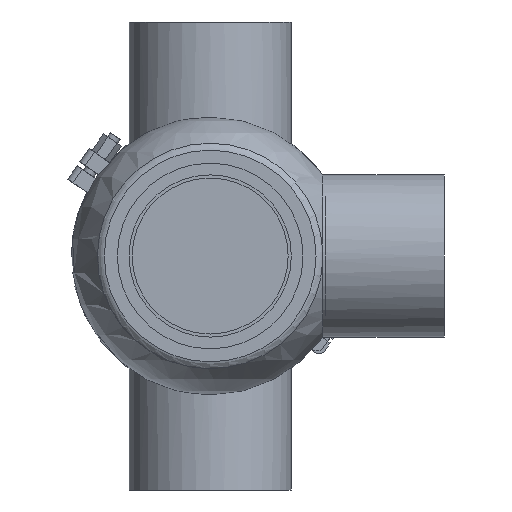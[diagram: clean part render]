
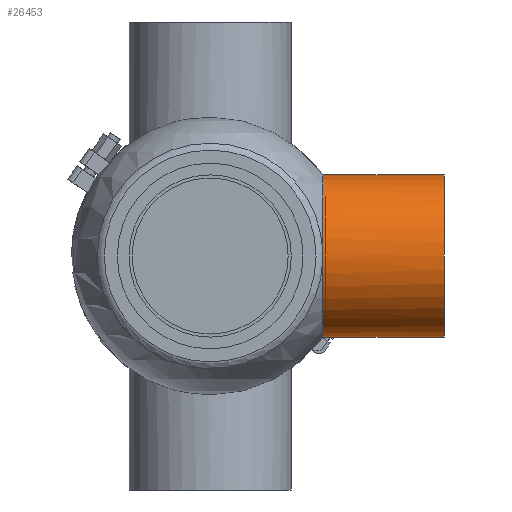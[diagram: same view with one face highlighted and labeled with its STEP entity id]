
A CAD part, front view. The second image highlights one B-rep face of the part: STEP entity #26453.
In plain terms, the highlighted cylindrical face has radius 52 mm (diameter 104 mm), a full revolution.
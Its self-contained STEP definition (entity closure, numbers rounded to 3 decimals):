
#510 = CARTESIAN_POINT ( 'NONE',  ( 72.229, 0., 0. ) ) ;
#591 = CARTESIAN_POINT ( 'NONE',  ( 72.229, 51.971, -1.75 ) ) ;
#992 = CARTESIAN_POINT ( 'NONE',  ( 72.229, 51.971, 1.75 ) ) ;
#1471 = CIRCLE ( 'NONE', #3363, 52. ) ;
#2521 = EDGE_CURVE ( 'NONE', #14295, #38650, #6543, .T. ) ;
#3198 = ORIENTED_EDGE ( 'NONE', *, *, #49920, .T. ) ;
#3363 = AXIS2_PLACEMENT_3D ( 'NONE', #510, #22889, #33087 ) ;
#3725 = CARTESIAN_POINT ( 'NONE',  ( 72.229, -52.018, -0.773 ) ) ;
#4003 = VERTEX_POINT ( 'NONE', #992 ) ;
#6543 = B_SPLINE_CURVE_WITH_KNOTS ( 'NONE', 3,
 ( #27333, #60237, #3725, #22685 ),
 .UNSPECIFIED., .F., .F.,
 ( 4, 4 ),
 ( 0.022, 0.026 ),
 .UNSPECIFIED. ) ;
#11148 = EDGE_CURVE ( 'NONE', #4003, #14295, #41016, .T. ) ;
#12014 = CARTESIAN_POINT ( 'NONE',  ( 150., 0., 52. ) ) ;
#12229 = ORIENTED_EDGE ( 'NONE', *, *, #14191, .T. ) ;
#12925 = DIRECTION ( 'NONE',  ( -1., 0., 0. ) ) ;
#14191 = EDGE_CURVE ( 'NONE', #16657, #16657, #48081, .T. ) ;
#14295 = VERTEX_POINT ( 'NONE', #26516 ) ;
#16282 = AXIS2_PLACEMENT_3D ( 'NONE', #51926, #28303, #59977 ) ;
#16657 = VERTEX_POINT ( 'NONE', #12014 ) ;
#18613 = CARTESIAN_POINT ( 'NONE',  ( 72.229, 51.971, 1.75 ) ) ;
#20208 = FACE_OUTER_BOUND ( 'NONE', #55333, .T. ) ;
#20278 = CARTESIAN_POINT ( 'NONE',  ( 72.229, 51.971, -1.75 ) ) ;
#20454 = AXIS2_PLACEMENT_3D ( 'NONE', #30444, #26698, #50297 ) ;
#22558 = VERTEX_POINT ( 'NONE', #20278 ) ;
#22685 = CARTESIAN_POINT ( 'NONE',  ( 72.229, -51.947, -2.34 ) ) ;
#22889 = DIRECTION ( 'NONE',  ( 1., 0., 0. ) ) ;
#22990 = ORIENTED_EDGE ( 'NONE', *, *, #53039, .T. ) ;
#23867 = CARTESIAN_POINT ( 'NONE',  ( 72.257, 52.01, -0.579 ) ) ;
#24266 = AXIS2_PLACEMENT_3D ( 'NONE', #40245, #12925, #41176 ) ;
#25800 = CYLINDRICAL_SURFACE ( 'NONE', #20454, 52. ) ;
#26453 = ADVANCED_FACE ( 'NONE', ( #43787, #20208 ), #25800, .T. ) ;
#26516 = CARTESIAN_POINT ( 'NONE',  ( 72.229, -51.947, 2.34 ) ) ;
#26698 = DIRECTION ( 'NONE',  ( -1., 0., 0. ) ) ;
#27333 = CARTESIAN_POINT ( 'NONE',  ( 72.229, -51.947, 2.34 ) ) ;
#28303 = DIRECTION ( 'NONE',  ( 1., 0., 0. ) ) ;
#30444 = CARTESIAN_POINT ( 'NONE',  ( 0., 0., 0. ) ) ;
#30570 = EDGE_LOOP ( 'NONE', ( #61419, #36599, #3198, #22990 ) ) ;
#33087 = DIRECTION ( 'NONE',  ( 0., 0., 1. ) ) ;
#36599 = ORIENTED_EDGE ( 'NONE', *, *, #2521, .T. ) ;
#38135 = CARTESIAN_POINT ( 'NONE',  ( 72.257, 52.01, 0.587 ) ) ;
#38650 = VERTEX_POINT ( 'NONE', #50352 ) ;
#40245 = CARTESIAN_POINT ( 'NONE',  ( 150., 0., 0. ) ) ;
#41016 = CIRCLE ( 'NONE', #16282, 52. ) ;
#41176 = DIRECTION ( 'NONE',  ( 0., 0., 1. ) ) ;
#43787 = FACE_OUTER_BOUND ( 'NONE', #30570, .T. ) ;
#48081 = CIRCLE ( 'NONE', #24266, 52. ) ;
#49920 = EDGE_CURVE ( 'NONE', #38650, #22558, #1471, .T. ) ;
#50297 = DIRECTION ( 'NONE',  ( 0., 0., 1. ) ) ;
#50352 = CARTESIAN_POINT ( 'NONE',  ( 72.229, -51.947, -2.34 ) ) ;
#51926 = CARTESIAN_POINT ( 'NONE',  ( 72.229, 0., 0. ) ) ;
#53039 = EDGE_CURVE ( 'NONE', #22558, #4003, #55402, .T. ) ;
#55333 = EDGE_LOOP ( 'NONE', ( #12229 ) ) ;
#55402 = B_SPLINE_CURVE_WITH_KNOTS ( 'NONE', 3,
 ( #591, #23867, #38135, #18613 ),
 .UNSPECIFIED., .F., .F.,
 ( 4, 4 ),
 ( 0.017, 0.02 ),
 .UNSPECIFIED. ) ;
#59977 = DIRECTION ( 'NONE',  ( 0., 0., 1. ) ) ;
#60237 = CARTESIAN_POINT ( 'NONE',  ( 72.229, -52.017, 0.786 ) ) ;
#61419 = ORIENTED_EDGE ( 'NONE', *, *, #11148, .T. ) ;
